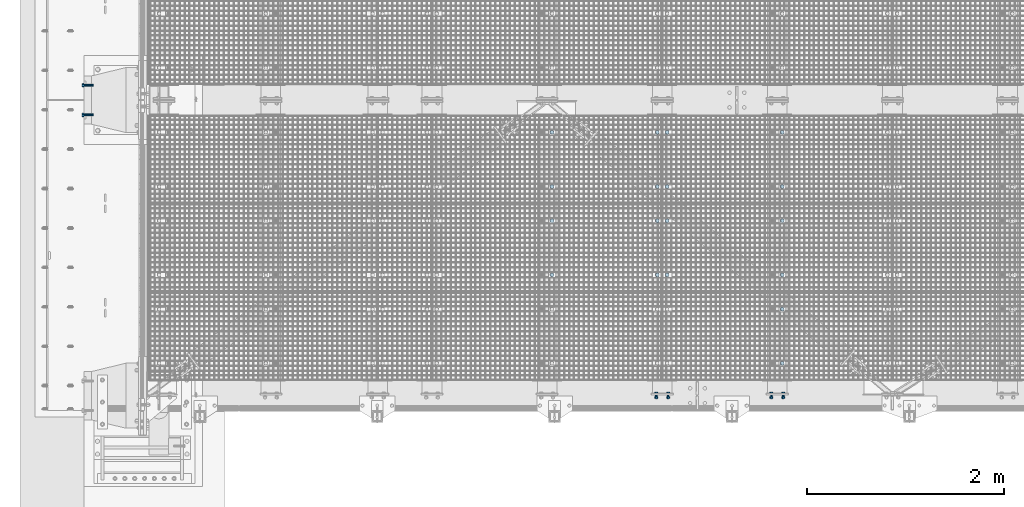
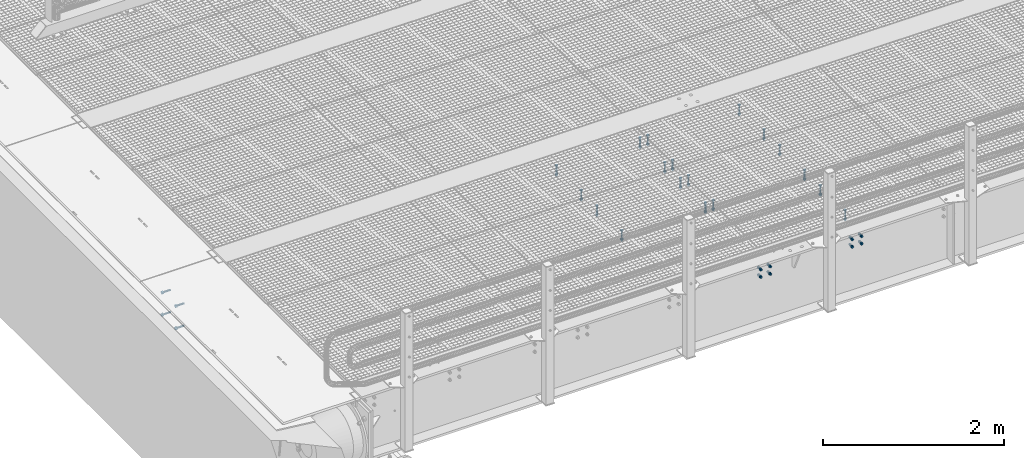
# One storey, part 11 of 1530: 12 mechanical fasteners.
"""IFC2X3 building model written with IfcOpenShell, lengths in millimetres."""

from ifc_helpers import new_model, si_unit, frame, origin_with_axes, place, context, subcontext, project, spatial, faceted_brep, source, transform, mapped, material, type_object, element, save


model = new_model("IFC2X3")

# Units and contexts
model_context = context("Model", 3, precision=1e-05, world=origin_with_axes())
body_context = subcontext(model_context, "Body", "Model", "MODEL_VIEW")
ifc_project = project(units=[si_unit("LENGTHUNIT", "METRE", prefix="MILLI"), si_unit("AREAUNIT", "SQUARE_METRE"), si_unit("VOLUMEUNIT", "CUBIC_METRE"), si_unit("MASSUNIT", "GRAM", prefix="KILO"), si_unit("TIMEUNIT", "SECOND"), si_unit("PLANEANGLEUNIT", "RADIAN"), si_unit("SOLIDANGLEUNIT", "STERADIAN"), si_unit("THERMODYNAMICTEMPERATUREUNIT", "DEGREE_CELSIUS"), si_unit("LUMINOUSINTENSITYUNIT", "LUMEN")], contexts=[model_context])

# Site, building, storey
site_placement = place(None, origin_with_axes())
site = spatial("IfcSite", under=ifc_project, at=site_placement, Name="Brattvåg", CompositionType="ELEMENT")
building_placement = place(site_placement, origin_with_axes())
building = spatial("IfcBuilding", under=site, at=building_placement, Name="Undefined", CompositionType="ELEMENT")
storey_placement = place(building_placement, origin_with_axes())
storey = spatial("IfcBuildingStorey", under=building, at=storey_placement, Name="Undefined", CompositionType="ELEMENT", Elevation=0.0)

# Mechanical fasteners
ifc_material = material(Name="8")
mechanical_fastener_type = type_object("IfcMechanicalFastenerType", Name="Bolt assembly")
shared_shape_1 = source(origin_with_axes(), body_context, "Body", "Brep", [
    faceted_brep([(17.3205080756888, -10.5, 0.0), (8.66025403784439, -10.5, 15.0), (-8.66025403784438, -10.5, 15.0), (-17.3205080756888, -10.5, 2.12115047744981e-15), (-8.66025403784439, -10.5, -15.0), (8.66025403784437, -10.5, -15.0), (8.66025403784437, 2.0, -15.0), (-8.66025403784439, 2.0, -15.0), (-17.3205080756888, 2.0, 2.12115047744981e-15), (-8.66025403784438, 2.0, 15.0), (8.66025403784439, 2.0, 15.0), (17.3205080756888, 2.0, 0.0), (10.0, 2.0, 0.0), (8.66025403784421, 2.0, 5.0000000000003), (4.9999999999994, 2.0, 8.66025403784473), (-1.03633598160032e-12, 2.0, 10.0), (-5.00000000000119, 2.0, 8.6602540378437), (-8.66025403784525, 2.0, 4.99999999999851), (-10.0, 2.0, -2.07267196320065e-12), (-8.66025403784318, 2.0, -5.00000000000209), (-4.99999999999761, 2.0, -8.66025403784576), (3.09790571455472e-12, 2.0, -10.0), (5.00000000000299, 2.0, -8.66025403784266), (8.66025403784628, 2.0, -4.99999999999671), (8.66025403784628, 142.0, -4.99999999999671), (5.00000000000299, 142.0, -8.66025403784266), (3.09790571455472e-12, 142.0, -10.0), (-4.99999999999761, 142.0, -8.66025403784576), (-8.66025403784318, 142.0, -5.00000000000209), (-10.0, 142.0, -2.07267196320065e-12), (-8.66025403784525, 142.0, 4.99999999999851), (-5.00000000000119, 142.0, 8.6602540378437), (-1.03633598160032e-12, 142.0, 10.0), (4.9999999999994, 142.0, 8.66025403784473), (8.66025403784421, 142.0, 5.0000000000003), (10.0, 142.0, 0.0), (18.5, 2.0, 0.0), (16.0214699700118, 2.0, 9.25000000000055), (9.2499999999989, 2.0, 16.0214699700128), (-1.9172215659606e-12, 2.0, 18.5), (-9.25000000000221, 2.0, 16.0214699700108), (-16.0214699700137, 2.0, 9.24999999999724), (-18.5, 2.0, -3.83444313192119e-12), (-16.0214699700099, 2.0, -9.25000000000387), (-9.24999999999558, 2.0, -16.0214699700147), (5.73112557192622e-12, 2.0, -18.5), (9.25000000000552, 2.0, -16.0214699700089), (16.0214699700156, 2.0, -9.24999999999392), (16.0214699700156, 5.0, -9.24999999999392), (9.25000000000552, 5.0, -16.0214699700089), (5.73112557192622e-12, 5.0, -18.5), (-9.24999999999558, 5.0, -16.0214699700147), (-16.0214699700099, 5.0, -9.25000000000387), (-18.5, 5.0, -3.83444313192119e-12), (-16.0214699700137, 5.0, 9.24999999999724), (-9.25000000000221, 5.0, 16.0214699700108), (-1.9172215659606e-12, 5.0, 18.5), (9.2499999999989, 5.0, 16.0214699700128), (16.0214699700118, 5.0, 9.25000000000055), (18.5, 5.0, 0.0), (18.5, 109.998931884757, 0.0), (16.0214699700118, 109.998931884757, 9.25000000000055), (9.2499999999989, 109.998931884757, 16.0214699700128), (-1.9172215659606e-12, 109.998931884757, 18.5), (-9.25000000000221, 109.998931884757, 16.0214699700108), (-16.0214699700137, 109.998931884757, 9.24999999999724), (-18.5, 109.998931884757, -3.83444313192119e-12), (-16.0214699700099, 109.998931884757, -9.25000000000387), (-9.24999999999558, 109.998931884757, -16.0214699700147), (5.73112557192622e-12, 109.998931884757, -18.5), (9.25000000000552, 109.998931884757, -16.0214699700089), (16.0214699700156, 109.998931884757, -9.24999999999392), (16.0214699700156, 112.998931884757, -9.24999999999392), (9.25000000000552, 112.998931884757, -16.0214699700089), (5.73112557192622e-12, 112.998931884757, -18.5), (-9.24999999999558, 112.998931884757, -16.0214699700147), (-16.0214699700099, 112.998931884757, -9.25000000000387), (-18.5, 112.998931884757, -3.83444313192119e-12), (-16.0214699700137, 112.998931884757, 9.24999999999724), (-9.25000000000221, 112.998931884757, 16.0214699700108), (-1.9172215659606e-12, 112.998931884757, 18.5), (9.2499999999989, 112.998931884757, 16.0214699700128), (16.0214699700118, 112.998931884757, 9.25000000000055), (18.5, 112.998931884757, 0.0), (17.3205080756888, 112.998931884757, 0.0), (8.66025403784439, 112.998931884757, 15.0), (-8.66025403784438, 112.998931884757, 15.0), (-17.3205080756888, 112.998931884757, 2.12115047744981e-15), (-8.66025403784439, 112.998931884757, -15.0), (8.66025403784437, 112.998931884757, -15.0), (8.66025403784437, 130.998931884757, -15.0), (-8.66025403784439, 130.998931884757, -15.0), (-17.3205080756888, 130.998931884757, 2.12115047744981e-15), (-8.66025403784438, 130.998931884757, 15.0), (8.66025403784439, 130.998931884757, 15.0), (17.3205080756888, 130.998931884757, 0.0)], [[[0, 1, 2, 3, 4, 5]], [[6, 7, 8, 9, 10, 11]], [[0, 11, 10, 1]], [[1, 10, 9, 2]], [[2, 9, 8, 3]], [[3, 8, 7, 4]], [[4, 7, 6, 5]], [[5, 6, 11, 0]], [[12, 13, 14, 15, 16, 17, 18, 19, 20, 21, 22, 23]], [[24, 25, 26, 27, 28, 29, 30, 31, 32, 33, 34, 35]], [[12, 35, 34, 13]], [[13, 34, 33, 14]], [[14, 33, 32, 15]], [[15, 32, 31, 16]], [[16, 31, 30, 17]], [[17, 30, 29, 18]], [[18, 29, 28, 19]], [[19, 28, 27, 20]], [[20, 27, 26, 21]], [[21, 26, 25, 22]], [[22, 25, 24, 23]], [[23, 24, 35, 12]], [[36, 37, 38, 39, 40, 41, 42, 43, 44, 45, 46, 47]], [[48, 49, 50, 51, 52, 53, 54, 55, 56, 57, 58, 59]], [[36, 59, 58, 37]], [[37, 58, 57, 38]], [[38, 57, 56, 39]], [[39, 56, 55, 40]], [[40, 55, 54, 41]], [[41, 54, 53, 42]], [[42, 53, 52, 43]], [[43, 52, 51, 44]], [[44, 51, 50, 45]], [[45, 50, 49, 46]], [[46, 49, 48, 47]], [[47, 48, 59, 36]], [[60, 61, 62, 63, 64, 65, 66, 67, 68, 69, 70, 71]], [[72, 73, 74, 75, 76, 77, 78, 79, 80, 81, 82, 83]], [[60, 83, 82, 61]], [[61, 82, 81, 62]], [[62, 81, 80, 63]], [[63, 80, 79, 64]], [[64, 79, 78, 65]], [[65, 78, 77, 66]], [[66, 77, 76, 67]], [[67, 76, 75, 68]], [[68, 75, 74, 69]], [[69, 74, 73, 70]], [[70, 73, 72, 71]], [[71, 72, 83, 60]], [[84, 85, 86, 87, 88, 89]], [[90, 91, 92, 93, 94, 95]], [[84, 95, 94, 85]], [[85, 94, 93, 86]], [[86, 93, 92, 87]], [[87, 92, 91, 88]], [[88, 91, 90, 89]], [[89, 90, 95, 84]]]),
])
for number, where, z_axis, x_axis, name in (
    (1, (5292.00477935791, 2121.91931152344, -25.0), (-1.0, 1.99999855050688e-09, 0.0), (0.0, 1.0, 0.0), "Bolt assembly"),
    (2, (5292.00477935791, 1224.91931152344, -25.0), (-1.0, 1.99999855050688e-09, 0.0), (0.0, 1.0, 0.0), "Bolt assembly"),
    (3, (6460.01192543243, 2121.99, -25.0), (-1.0, 1.99999855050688e-09, 0.0), (0.0, 1.0, 0.0), "Bolt assembly"),
    (4, (5192.01487731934, 2121.9204864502, -25.0), (-1.0, 1.99999855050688e-09, 0.0), (0.0, 1.0, 0.0), "Bolt assembly"),
    (5, (4124.01192543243, 2121.99, -25.0), (-1.0, 1.99999855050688e-09, 0.0), (0.0, 1.0, 0.0), "Bolt assembly"),
    (6, (6460.01192543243, 1224.99, -25.0), (-1.0, 1.99999855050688e-09, 0.0), (0.0, 1.0, 0.0), "Bolt assembly"),
    (7, (5192.01487731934, 1224.9204864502, -25.0), (-1.0, 1.99999855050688e-09, 0.0), (0.0, 1.0, 0.0), "Bolt assembly"),
    (8, (4124.01192543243, 1224.99, -25.0), (-1.0, 1.99999855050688e-09, 0.0), (0.0, 1.0, 0.0), "Bolt assembly"),
    (9, (6460.01192543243, 327.99, -25.0), (-1.0, 1.99999855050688e-09, 0.0), (0.0, 1.0, 0.0), "Bolt assembly"),
):
    element("IfcMechanicalFastener", number, at=place(storey_placement, frame(where, z_axis=z_axis, x_axis=x_axis)), inside=storey, type_object=mechanical_fastener_type, material=ifc_material, Name=name, NominalDiameter=20.0, NominalLength=140.0, context=body_context, shape_type="MappedRepresentation", body=[
        mapped(shared_shape_1, transform((0.0, 0.0, 0.0))),
        mapped(shared_shape_1, transform((549.999999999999, 0.0, 0.0))),
    ])
shared_shape_2 = source(origin_with_axes(), body_context, "Body", "Brep", [
    faceted_brep([(20.7846096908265, -19.0, 0.0), (10.3923048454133, -19.0, 18.0), (-10.3923048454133, -19.0, 18.0), (-20.7846096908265, -19.0, 2.54538057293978e-15), (-10.3923048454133, -19.0, -18.0), (10.3923048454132, -19.0, -18.0), (10.3923048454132, -4.0, -18.0), (-10.3923048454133, -4.0, -18.0), (-20.7846096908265, -4.0, 2.54538057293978e-15), (-10.3923048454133, -4.0, 18.0), (10.3923048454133, -4.0, 18.0), (20.7846096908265, -4.0, 0.0), (12.0, -4.0, 0.0), (10.3923048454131, -4.0, 6.00000000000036), (5.99999999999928, -4.0, 10.3923048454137), (-1.24360317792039e-12, -4.0, 12.0), (-6.00000000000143, -4.0, 10.3923048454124), (-10.3923048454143, -4.0, 5.99999999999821), (-12.0, -4.0, -2.48720635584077e-12), (-10.3923048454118, -4.0, -6.00000000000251), (-5.99999999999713, -4.0, -10.3923048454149), (3.71748685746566e-12, -4.0, -12.0), (6.00000000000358, -4.0, -10.3923048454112), (10.3923048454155, -4.0, -5.99999999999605), (10.3923048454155, 96.0, -5.99999999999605), (6.00000000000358, 96.0, -10.3923048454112), (3.71748685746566e-12, 96.0, -12.0), (-5.99999999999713, 96.0, -10.3923048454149), (-10.3923048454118, 96.0, -6.00000000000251), (-12.0, 96.0, -2.48720635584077e-12), (-10.3923048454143, 96.0, 5.99999999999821), (-6.00000000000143, 96.0, 10.3923048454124), (-1.24360317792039e-12, 96.0, 12.0), (5.99999999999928, 96.0, 10.3923048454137), (10.3923048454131, 96.0, 6.00000000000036), (12.0, 96.0, 0.0), (22.0, -4.0, 0.0), (19.0525588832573, -4.0, 11.0000000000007), (10.9999999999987, -4.0, 19.0525588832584), (-2.27993915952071e-12, -4.0, 22.0), (-11.0000000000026, -4.0, 19.0525588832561), (-19.0525588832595, -4.0, 10.9999999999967), (-22.0, -4.0, -4.55987831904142e-12), (-19.052558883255, -4.0, -11.0000000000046), (-10.9999999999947, -4.0, -19.0525588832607), (6.81539257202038e-12, -4.0, -22.0), (11.0000000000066, -4.0, -19.0525588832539), (19.0525588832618, -4.0, -10.9999999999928), (19.0525588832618, 0.0, -10.9999999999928), (11.0000000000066, 0.0, -19.0525588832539), (6.81539257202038e-12, 0.0, -22.0), (-10.9999999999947, 0.0, -19.0525588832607), (-19.052558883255, 0.0, -11.0000000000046), (-22.0, 0.0, -4.55987831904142e-12), (-19.0525588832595, 0.0, 10.9999999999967), (-11.0000000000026, 0.0, 19.0525588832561), (-2.27993915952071e-12, 0.0, 22.0), (10.9999999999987, 0.0, 19.0525588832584), (19.0525588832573, 0.0, 11.0000000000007), (22.0, 0.0, 0.0)], [[[0, 1, 2, 3, 4, 5]], [[6, 7, 8, 9, 10, 11]], [[0, 11, 10, 1]], [[1, 10, 9, 2]], [[2, 9, 8, 3]], [[3, 8, 7, 4]], [[4, 7, 6, 5]], [[5, 6, 11, 0]], [[12, 13, 14, 15, 16, 17, 18, 19, 20, 21, 22, 23]], [[24, 25, 26, 27, 28, 29, 30, 31, 32, 33, 34, 35]], [[12, 35, 34, 13]], [[13, 34, 33, 14]], [[14, 33, 32, 15]], [[15, 32, 31, 16]], [[16, 31, 30, 17]], [[17, 30, 29, 18]], [[18, 29, 28, 19]], [[19, 28, 27, 20]], [[20, 27, 26, 21]], [[21, 26, 25, 22]], [[22, 25, 24, 23]], [[23, 24, 35, 12]], [[36, 37, 38, 39, 40, 41, 42, 43, 44, 45, 46, 47]], [[48, 49, 50, 51, 52, 53, 54, 55, 56, 57, 58, 59]], [[36, 59, 58, 37]], [[37, 58, 57, 38]], [[38, 57, 56, 39]], [[39, 56, 55, 40]], [[40, 55, 54, 41]], [[41, 54, 53, 42]], [[42, 53, 52, 43]], [[43, 52, 51, 44]], [[44, 51, 50, 45]], [[45, 50, 49, 46]], [[46, 49, 48, 47]], [[47, 48, 59, 36]]]),
])
mechanical_fastener_placement = place(storey_placement, frame((-625.003913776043, 2999.99526545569, -514.998199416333), z_axis=(3.30839999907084e-05, -0.70710678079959, -0.707106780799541), x_axis=(1.00000053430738e-09, 0.707106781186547, -0.707106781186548)))
element("IfcMechanicalFastener", 10, at=mechanical_fastener_placement, inside=storey, type_object=mechanical_fastener_type, material=ifc_material, Name="Bolt assembly", NominalDiameter=24.0, NominalLength=100.0, context=body_context, shape_type="MappedRepresentation", body=[
    mapped(shared_shape_2, transform((212.500000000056, 1.09366737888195e-10, 5.72981662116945e-11))),
    mapped(shared_shape_2, transform((2.5465851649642e-11, -8.85620465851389e-11, 212.499999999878))),
    mapped(shared_shape_2, transform((-212.500000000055, -1.09480424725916e-10, -5.82076609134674e-11))),
    mapped(shared_shape_2, transform((-2.36468622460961e-11, 8.84483597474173e-11, -212.49999999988))),
])
shared_shape_3 = source(origin_with_axes(), body_context, "Body", "Brep", [
    faceted_brep([(17.3205080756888, -15.5000000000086, 0.0), (8.66025403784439, -15.5000000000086, 15.0), (-8.66025403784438, -15.5000000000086, 15.0), (-17.3205080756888, -15.5000000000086, 2.12115047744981e-15), (-8.66025403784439, -15.5000000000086, -15.0), (8.66025403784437, -15.5000000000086, -15.0), (8.66025403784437, -3.00000000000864, -15.0), (-8.66025403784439, -3.00000000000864, -15.0), (-17.3205080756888, -3.00000000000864, 2.12115047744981e-15), (-8.66025403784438, -3.00000000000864, 15.0), (8.66025403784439, -3.00000000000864, 15.0), (17.3205080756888, -3.00000000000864, 0.0), (10.0, -3.00000000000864, 0.0), (8.66025403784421, -3.00000000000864, 5.0000000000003), (4.9999999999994, -3.00000000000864, 8.66025403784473), (-1.03633598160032e-12, -3.00000000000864, 10.0), (-5.00000000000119, -3.00000000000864, 8.6602540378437), (-8.66025403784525, -3.00000000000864, 4.99999999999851), (-10.0, -3.00000000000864, -2.07267196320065e-12), (-8.66025403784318, -3.00000000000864, -5.00000000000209), (-4.99999999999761, -3.00000000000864, -8.66025403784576), (3.09790571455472e-12, -3.00000000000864, -10.0), (5.00000000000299, -3.00000000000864, -8.66025403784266), (8.66025403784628, -3.00000000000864, -4.99999999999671), (8.66025403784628, 57.0, -4.99999999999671), (5.00000000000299, 57.0, -8.66025403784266), (3.09790571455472e-12, 57.0, -10.0), (-4.99999999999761, 57.0, -8.66025403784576), (-8.66025403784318, 57.0, -5.00000000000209), (-10.0, 57.0, -2.07267196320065e-12), (-8.66025403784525, 57.0, 4.99999999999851), (-5.00000000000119, 57.0, 8.6602540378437), (-1.03633598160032e-12, 57.0, 10.0), (4.9999999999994, 57.0, 8.66025403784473), (8.66025403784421, 57.0, 5.0000000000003), (10.0, 57.0, 0.0), (18.5, -3.00000000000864, 0.0), (16.0214699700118, -3.00000000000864, 9.25000000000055), (9.2499999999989, -3.00000000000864, 16.0214699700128), (-1.9172215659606e-12, -3.00000000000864, 18.5), (-9.25000000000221, -3.00000000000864, 16.0214699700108), (-16.0214699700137, -3.00000000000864, 9.24999999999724), (-18.5, -3.00000000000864, -3.83444313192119e-12), (-16.0214699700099, -3.00000000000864, -9.25000000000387), (-9.24999999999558, -3.00000000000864, -16.0214699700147), (5.73112557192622e-12, -3.00000000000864, -18.5), (9.25000000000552, -3.00000000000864, -16.0214699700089), (16.0214699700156, -3.00000000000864, -9.24999999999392), (16.0214699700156, -8.64019966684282e-12, -9.24999999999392), (9.25000000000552, -8.64019966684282e-12, -16.0214699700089), (5.73112557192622e-12, -8.64019966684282e-12, -18.5), (-9.24999999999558, -8.64019966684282e-12, -16.0214699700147), (-16.0214699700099, -8.64019966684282e-12, -9.25000000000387), (-18.5, -8.64019966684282e-12, -3.83444313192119e-12), (-16.0214699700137, -8.64019966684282e-12, 9.24999999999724), (-9.25000000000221, -8.64019966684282e-12, 16.0214699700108), (-1.9172215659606e-12, -8.64019966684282e-12, 18.5), (9.2499999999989, -8.64019966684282e-12, 16.0214699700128), (16.0214699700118, -8.64019966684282e-12, 9.25000000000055), (18.5, -8.64019966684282e-12, 0.0), (18.5, 31.0015563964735, 0.0), (16.0214699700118, 31.0015563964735, 9.25000000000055), (9.2499999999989, 31.0015563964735, 16.0214699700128), (-1.9172215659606e-12, 31.0015563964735, 18.5), (-9.25000000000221, 31.0015563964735, 16.0214699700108), (-16.0214699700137, 31.0015563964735, 9.24999999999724), (-18.5, 31.0015563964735, -3.83444313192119e-12), (-16.0214699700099, 31.0015563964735, -9.25000000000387), (-9.24999999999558, 31.0015563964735, -16.0214699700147), (5.73112557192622e-12, 31.0015563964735, -18.5), (9.25000000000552, 31.0015563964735, -16.0214699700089), (16.0214699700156, 31.0015563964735, -9.24999999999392), (16.0214699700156, 34.0015563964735, -9.24999999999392), (9.25000000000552, 34.0015563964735, -16.0214699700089), (5.73112557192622e-12, 34.0015563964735, -18.5), (-9.24999999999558, 34.0015563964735, -16.0214699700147), (-16.0214699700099, 34.0015563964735, -9.25000000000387), (-18.5, 34.0015563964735, -3.83444313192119e-12), (-16.0214699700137, 34.0015563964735, 9.24999999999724), (-9.25000000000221, 34.0015563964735, 16.0214699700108), (-1.9172215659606e-12, 34.0015563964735, 18.5), (9.2499999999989, 34.0015563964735, 16.0214699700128), (16.0214699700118, 34.0015563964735, 9.25000000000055), (18.5, 34.0015563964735, 0.0), (17.3205080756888, 34.0015563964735, 0.0), (8.66025403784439, 34.0015563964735, 15.0), (-8.66025403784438, 34.0015563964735, 15.0), (-17.3205080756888, 34.0015563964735, 2.12115047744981e-15), (-8.66025403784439, 34.0015563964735, -15.0), (8.66025403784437, 34.0015563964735, -15.0), (8.66025403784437, 52.0015563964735, -15.0), (-8.66025403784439, 52.0015563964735, -15.0), (-17.3205080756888, 52.0015563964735, 2.12115047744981e-15), (-8.66025403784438, 52.0015563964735, 15.0), (8.66025403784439, 52.0015563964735, 15.0), (17.3205080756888, 52.0015563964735, 0.0)], [[[0, 1, 2, 3, 4, 5]], [[6, 7, 8, 9, 10, 11]], [[0, 11, 10, 1]], [[1, 10, 9, 2]], [[2, 9, 8, 3]], [[3, 8, 7, 4]], [[4, 7, 6, 5]], [[5, 6, 11, 0]], [[12, 13, 14, 15, 16, 17, 18, 19, 20, 21, 22, 23]], [[24, 25, 26, 27, 28, 29, 30, 31, 32, 33, 34, 35]], [[12, 35, 34, 13]], [[13, 34, 33, 14]], [[14, 33, 32, 15]], [[15, 32, 31, 16]], [[16, 31, 30, 17]], [[17, 30, 29, 18]], [[18, 29, 28, 19]], [[19, 28, 27, 20]], [[20, 27, 26, 21]], [[21, 26, 25, 22]], [[22, 25, 24, 23]], [[23, 24, 35, 12]], [[36, 37, 38, 39, 40, 41, 42, 43, 44, 45, 46, 47]], [[48, 49, 50, 51, 52, 53, 54, 55, 56, 57, 58, 59]], [[36, 59, 58, 37]], [[37, 58, 57, 38]], [[38, 57, 56, 39]], [[39, 56, 55, 40]], [[40, 55, 54, 41]], [[41, 54, 53, 42]], [[42, 53, 52, 43]], [[43, 52, 51, 44]], [[44, 51, 50, 45]], [[45, 50, 49, 46]], [[46, 49, 48, 47]], [[47, 48, 59, 36]], [[60, 61, 62, 63, 64, 65, 66, 67, 68, 69, 70, 71]], [[72, 73, 74, 75, 76, 77, 78, 79, 80, 81, 82, 83]], [[60, 83, 82, 61]], [[61, 82, 81, 62]], [[62, 81, 80, 63]], [[63, 80, 79, 64]], [[64, 79, 78, 65]], [[65, 78, 77, 66]], [[66, 77, 76, 67]], [[67, 76, 75, 68]], [[68, 75, 74, 69]], [[69, 74, 73, 70]], [[70, 73, 72, 71]], [[71, 72, 83, 60]], [[84, 85, 86, 87, 88, 89]], [[90, 91, 92, 93, 94, 95]], [[84, 95, 94, 85]], [[85, 94, 93, 86]], [[86, 93, 92, 87]], [[87, 92, 91, 88]], [[88, 91, 90, 89]], [[89, 90, 95, 84]]]),
    faceted_brep([(11.0, 0.1, 0.0), (9.52627944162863, 0.1, 5.50000000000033), (5.49999999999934, 0.1, 9.5262794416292), (-1.13996957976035e-12, 0.1, 11.0), (-5.50000000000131, 0.1, 9.52627944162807), (-9.52627944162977, 0.1, 5.49999999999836), (-11.0, 0.1, -2.27993915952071e-12), (-9.5262794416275, 0.1, -5.5000000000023), (-5.49999999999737, 0.1, -9.52627944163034), (3.40769628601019e-12, 0.1, -11.0), (5.50000000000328, 0.1, -9.52627944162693), (9.52627944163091, 0.1, -5.49999999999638), (9.52627944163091, 15.1, -5.49999999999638), (5.50000000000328, 15.1, -9.52627944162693), (3.40769628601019e-12, 15.1, -11.0), (-5.49999999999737, 15.1, -9.52627944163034), (-9.5262794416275, 15.1, -5.5000000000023), (-11.0, 15.1, -2.27993915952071e-12), (-9.52627944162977, 15.1, 5.49999999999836), (-5.50000000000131, 15.1, 9.52627944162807), (-1.13996957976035e-12, 15.1, 11.0), (5.49999999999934, 15.1, 9.5262794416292), (9.52627944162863, 15.1, 5.50000000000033), (11.0, 15.1, 0.0), (11.0, 14.9015563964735, 0.0), (9.52627944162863, 14.9015563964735, 5.50000000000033), (5.49999999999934, 14.9015563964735, 9.5262794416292), (-1.13996957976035e-12, 14.9015563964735, 11.0), (-5.50000000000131, 14.9015563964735, 9.52627944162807), (-9.52627944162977, 14.9015563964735, 5.49999999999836), (-11.0, 14.9015563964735, -2.27993915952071e-12), (-9.5262794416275, 14.9015563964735, -5.5000000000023), (-5.49999999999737, 14.9015563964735, -9.52627944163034), (3.40769628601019e-12, 14.9015563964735, -11.0), (5.50000000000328, 14.9015563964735, -9.52627944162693), (9.52627944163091, 14.9015563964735, -5.49999999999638), (9.52627944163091, 31.0015563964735, -5.49999999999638), (5.50000000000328, 31.0015563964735, -9.52627944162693), (3.40769628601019e-12, 31.0015563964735, -11.0), (-5.49999999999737, 31.0015563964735, -9.52627944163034), (-9.5262794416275, 31.0015563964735, -5.5000000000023), (-11.0, 31.0015563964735, -2.27993915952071e-12), (-9.52627944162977, 31.0015563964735, 5.49999999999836), (-5.50000000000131, 31.0015563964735, 9.52627944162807), (-1.13996957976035e-12, 31.0015563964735, 11.0), (5.49999999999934, 31.0015563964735, 9.5262794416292), (9.52627944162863, 31.0015563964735, 5.50000000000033), (11.0, 31.0015563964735, 0.0)], [[[0, 1, 2, 3, 4, 5, 6, 7, 8, 9, 10, 11]], [[12, 13, 14, 15, 16, 17, 18, 19, 20, 21, 22, 23]], [[0, 23, 22, 1]], [[1, 22, 21, 2]], [[2, 21, 20, 3]], [[3, 20, 19, 4]], [[4, 19, 18, 5]], [[5, 18, 17, 6]], [[6, 17, 16, 7]], [[7, 16, 15, 8]], [[8, 15, 14, 9]], [[9, 14, 13, 10]], [[10, 13, 12, 11]], [[11, 12, 23, 0]], [[24, 25, 26, 27, 28, 29, 30, 31, 32, 33, 34, 35]], [[36, 37, 38, 39, 40, 41, 42, 43, 44, 45, 46, 47]], [[24, 47, 46, 25]], [[25, 46, 45, 26]], [[26, 45, 44, 27]], [[27, 44, 43, 28]], [[28, 43, 42, 29]], [[29, 42, 41, 30]], [[30, 41, 40, 31]], [[31, 40, 39, 32]], [[32, 39, 38, 33]], [[33, 38, 37, 34]], [[34, 37, 36, 35]], [[35, 36, 47, 24]]]),
])
for number, where, z_axis, x_axis, name in (
    (11, (5302.00196838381, 23.0015563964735, -219.998836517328), (0.0, 0.0, 1.0), (-1.0, 1.99999855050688e-09, 0.0), "Bolt assembly"),
    (12, (6470.00196838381, 23.0015563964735, -219.998836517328), (0.0, 0.0, 1.0), (-1.0, 1.99999855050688e-09, 0.0), "Bolt assembly"),
):
    element("IfcMechanicalFastener", number, at=place(storey_placement, frame(where, z_axis=z_axis, x_axis=x_axis)), inside=storey, type_object=mechanical_fastener_type, material=ifc_material, Name=name, NominalDiameter=20.0, NominalLength=60.0, context=body_context, shape_type="MappedRepresentation", body=[
        mapped(shared_shape_3, transform((0.0, 0.0, -50.0))),
        mapped(shared_shape_3, transform((120.0, 0.0, -50.0))),
        mapped(shared_shape_3, transform((0.0, 0.0, 50.0))),
        mapped(shared_shape_3, transform((120.0, 0.0, 50.0))),
    ])

save(model, "model.ifc")
